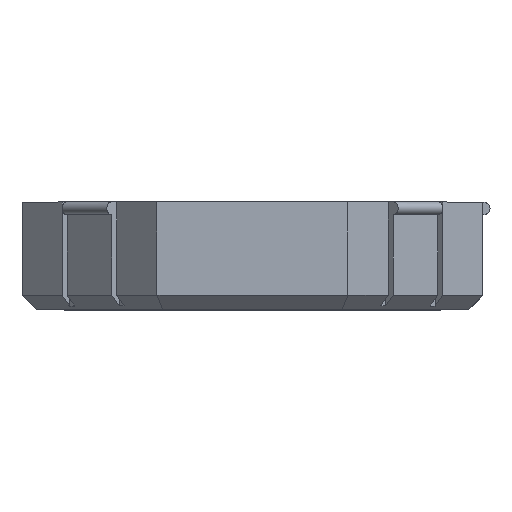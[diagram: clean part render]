
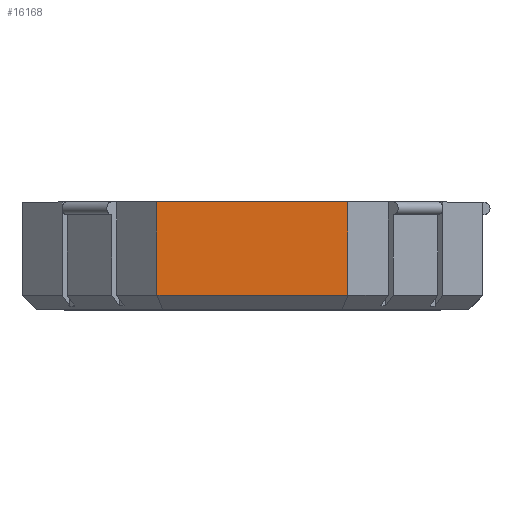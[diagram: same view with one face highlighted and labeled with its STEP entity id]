
A CAD part, top view. The second image highlights one B-rep face of the part: STEP entity #16168.
In plain terms, the highlighted planar face has unit normal (0, 0, 1).
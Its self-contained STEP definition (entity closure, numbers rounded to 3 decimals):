
#4820 = PLANE('',#4821);
#4821 = AXIS2_PLACEMENT_3D('',#4822,#4823,#4824);
#4822 = CARTESIAN_POINT('',(0.,13.35,-46.506));
#4823 = DIRECTION('',(0.,1.,0.));
#4824 = DIRECTION('',(0.,0.,1.));
#12223 = VERTEX_POINT('',#12224);
#12224 = CARTESIAN_POINT('',(-13.621,13.35,32.885));
#12238 = PLANE('',#12239);
#12239 = AXIS2_PLACEMENT_3D('',#12240,#12241,#12242);
#12240 = CARTESIAN_POINT('',(-32.445,13.35,14.061));
#12241 = DIRECTION('',(0.707,0.,-0.707));
#12242 = DIRECTION('',(-0.707,0.,-0.707));
#12250 = EDGE_CURVE('',#12223,#12251,#12253,.T.);
#12251 = VERTEX_POINT('',#12252);
#12252 = CARTESIAN_POINT('',(13.621,13.35,32.885));
#12253 = SURFACE_CURVE('',#12254,(#12258,#12265),.PCURVE_S1.);
#12254 = LINE('',#12255,#12256);
#12255 = CARTESIAN_POINT('',(-13.,13.35,32.885));
#12256 = VECTOR('',#12257,1.);
#12257 = DIRECTION('',(1.,0.,0.));
#12258 = PCURVE('',#4820,#12259);
#12259 = DEFINITIONAL_REPRESENTATION('',(#12260),#12264);
#12260 = LINE('',#12261,#12262);
#12261 = CARTESIAN_POINT('',(79.391,-13.));
#12262 = VECTOR('',#12263,1.);
#12263 = DIRECTION('',(0.,1.));
#12264 = ( GEOMETRIC_REPRESENTATION_CONTEXT(2) 
PARAMETRIC_REPRESENTATION_CONTEXT() REPRESENTATION_CONTEXT('2D SPACE',''
  ) );
#12265 = PCURVE('',#12266,#12271);
#12266 = PLANE('',#12267);
#12267 = AXIS2_PLACEMENT_3D('',#12268,#12269,#12270);
#12268 = CARTESIAN_POINT('',(-13.,13.35,32.885));
#12269 = DIRECTION('',(0.,0.,-1.));
#12270 = DIRECTION('',(-1.,0.,0.));
#12271 = DEFINITIONAL_REPRESENTATION('',(#12272),#12276);
#12272 = LINE('',#12273,#12274);
#12273 = CARTESIAN_POINT('',(0.,0.));
#12274 = VECTOR('',#12275,1.);
#12275 = DIRECTION('',(-1.,0.));
#12276 = ( GEOMETRIC_REPRESENTATION_CONTEXT(2) 
PARAMETRIC_REPRESENTATION_CONTEXT() REPRESENTATION_CONTEXT('2D SPACE',''
  ) );
#12294 = PLANE('',#12295);
#12295 = AXIS2_PLACEMENT_3D('',#12296,#12297,#12298);
#12296 = CARTESIAN_POINT('',(14.061,13.35,32.445));
#12297 = DIRECTION('',(-0.707,0.,-0.707));
#12298 = DIRECTION('',(-0.707,0.,0.707));
#15823 = VERTEX_POINT('',#15824);
#15824 = CARTESIAN_POINT('',(-13.621,0.,
    32.885));
#15845 = EDGE_CURVE('',#15823,#12223,#15846,.T.);
#15846 = SURFACE_CURVE('',#15847,(#15851,#15858),.PCURVE_S1.);
#15847 = LINE('',#15848,#15849);
#15848 = CARTESIAN_POINT('',(-13.621,13.35,32.885));
#15849 = VECTOR('',#15850,1.);
#15850 = DIRECTION('',(0.,1.,0.));
#15851 = PCURVE('',#12238,#15852);
#15852 = DEFINITIONAL_REPRESENTATION('',(#15853),#15857);
#15853 = LINE('',#15854,#15855);
#15854 = CARTESIAN_POINT('',(-26.621,0.));
#15855 = VECTOR('',#15856,1.);
#15856 = DIRECTION('',(0.,1.));
#15857 = ( GEOMETRIC_REPRESENTATION_CONTEXT(2) 
PARAMETRIC_REPRESENTATION_CONTEXT() REPRESENTATION_CONTEXT('2D SPACE',''
  ) );
#15858 = PCURVE('',#12266,#15859);
#15859 = DEFINITIONAL_REPRESENTATION('',(#15860),#15864);
#15860 = LINE('',#15861,#15862);
#15861 = CARTESIAN_POINT('',(0.621,0.));
#15862 = VECTOR('',#15863,1.);
#15863 = DIRECTION('',(0.,1.));
#15864 = ( GEOMETRIC_REPRESENTATION_CONTEXT(2) 
PARAMETRIC_REPRESENTATION_CONTEXT() REPRESENTATION_CONTEXT('2D SPACE',''
  ) );
#16168 = ADVANCED_FACE('',(#16169),#12266,.F.);
#16169 = FACE_BOUND('',#16170,.T.);
#16170 = EDGE_LOOP('',(#16171,#16199,#16220,#16221));
#16171 = ORIENTED_EDGE('',*,*,#16172,.T.);
#16172 = EDGE_CURVE('',#15823,#16173,#16175,.T.);
#16173 = VERTEX_POINT('',#16174);
#16174 = CARTESIAN_POINT('',(13.621,0.,
    32.885));
#16175 = SURFACE_CURVE('',#16176,(#16180,#16187),.PCURVE_S1.);
#16176 = LINE('',#16177,#16178);
#16177 = CARTESIAN_POINT('',(-32.885,0.,
    32.885));
#16178 = VECTOR('',#16179,1.);
#16179 = DIRECTION('',(1.,0.,0.));
#16180 = PCURVE('',#12266,#16181);
#16181 = DEFINITIONAL_REPRESENTATION('',(#16182),#16186);
#16182 = LINE('',#16183,#16184);
#16183 = CARTESIAN_POINT('',(19.885,-13.35));
#16184 = VECTOR('',#16185,1.);
#16185 = DIRECTION('',(-1.,0.));
#16186 = ( GEOMETRIC_REPRESENTATION_CONTEXT(2) 
PARAMETRIC_REPRESENTATION_CONTEXT() REPRESENTATION_CONTEXT('2D SPACE',''
  ) );
#16187 = PCURVE('',#16188,#16193);
#16188 = PLANE('',#16189);
#16189 = AXIS2_PLACEMENT_3D('',#16190,#16191,#16192);
#16190 = CARTESIAN_POINT('',(-32.885,-2.,30.885));
#16191 = DIRECTION('',(0.,0.707,
    -0.707));
#16192 = DIRECTION('',(0.,0.707,
    0.707));
#16193 = DEFINITIONAL_REPRESENTATION('',(#16194),#16198);
#16194 = LINE('',#16195,#16196);
#16195 = CARTESIAN_POINT('',(2.828,0.));
#16196 = VECTOR('',#16197,1.);
#16197 = DIRECTION('',(0.,1.));
#16198 = ( GEOMETRIC_REPRESENTATION_CONTEXT(2) 
PARAMETRIC_REPRESENTATION_CONTEXT() REPRESENTATION_CONTEXT('2D SPACE',''
  ) );
#16199 = ORIENTED_EDGE('',*,*,#16200,.T.);
#16200 = EDGE_CURVE('',#16173,#12251,#16201,.T.);
#16201 = SURFACE_CURVE('',#16202,(#16206,#16213),.PCURVE_S1.);
#16202 = LINE('',#16203,#16204);
#16203 = CARTESIAN_POINT('',(13.621,13.35,32.885));
#16204 = VECTOR('',#16205,1.);
#16205 = DIRECTION('',(0.,1.,0.));
#16206 = PCURVE('',#12266,#16207);
#16207 = DEFINITIONAL_REPRESENTATION('',(#16208),#16212);
#16208 = LINE('',#16209,#16210);
#16209 = CARTESIAN_POINT('',(-26.621,0.));
#16210 = VECTOR('',#16211,1.);
#16211 = DIRECTION('',(0.,1.));
#16212 = ( GEOMETRIC_REPRESENTATION_CONTEXT(2) 
PARAMETRIC_REPRESENTATION_CONTEXT() REPRESENTATION_CONTEXT('2D SPACE',''
  ) );
#16213 = PCURVE('',#12294,#16214);
#16214 = DEFINITIONAL_REPRESENTATION('',(#16215),#16219);
#16215 = LINE('',#16216,#16217);
#16216 = CARTESIAN_POINT('',(0.621,0.));
#16217 = VECTOR('',#16218,1.);
#16218 = DIRECTION('',(0.,1.));
#16219 = ( GEOMETRIC_REPRESENTATION_CONTEXT(2) 
PARAMETRIC_REPRESENTATION_CONTEXT() REPRESENTATION_CONTEXT('2D SPACE',''
  ) );
#16220 = ORIENTED_EDGE('',*,*,#12250,.F.);
#16221 = ORIENTED_EDGE('',*,*,#15845,.F.);
